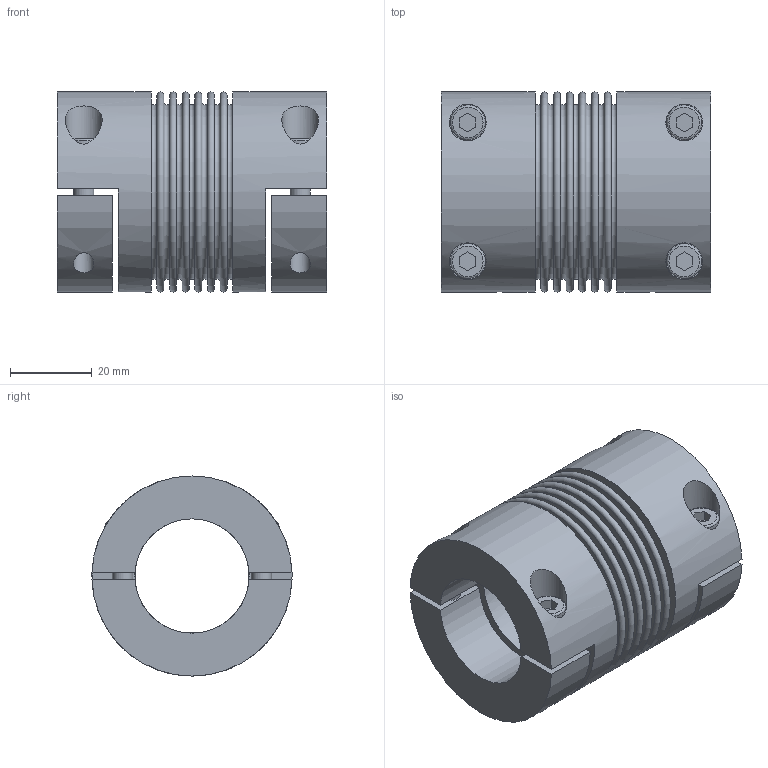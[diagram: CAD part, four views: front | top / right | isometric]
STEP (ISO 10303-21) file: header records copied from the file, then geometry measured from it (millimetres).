
FILE_DESCRIPTION(/* description */ ('STEP AP214'),/* implementation_level */ '2;1');
FILE_NAME(/* name */ 'C:\Diequa Files\DieQua Coupling\BCS\STP\BCS.15.66.#.#.stp',/* time_stamp */ '2018-11-15T09:09:19-06:00',/* author */ ('DiequaCAD'),/* organization */ (''),/* preprocessor_version */ 'ST-DEVELOPER v17.2',/* originating_system */ 'Autodesk Inventor 2019',/* authorisation */ ' ');
FILE_SCHEMA (('AUTOMOTIVE_DESIGN { 1 0 10303 214 3 1 1 }'));
Length unit declared in the file: millimetre
Products named in the file (1): BKH_15_66_28_28_PFN_3
Bounding box: 66 x 49 x 49 mm (x, y, z)
Volume: 65191.5 mm3; surface area: 29951.4 mm2
Topology: 1 solids, 1 shells, 117 faces, 271 edges, 190 vertices
Faces by surface type: plane 75, cylinder 25, torus 17
Full cylindrical faces by diameter (mm): 5 x8, 8.5 x4, 9 x4, 28 x1, 36 x1, 49 x2
Entity records: 3752 total; most frequent: CARTESIAN_POINT 879, DIRECTION 620, ORIENTED_EDGE 542, EDGE_CURVE 271, AXIS2_PLACEMENT_3D 243, VERTEX_POINT 190, EDGE_LOOP 157, LINE 134
